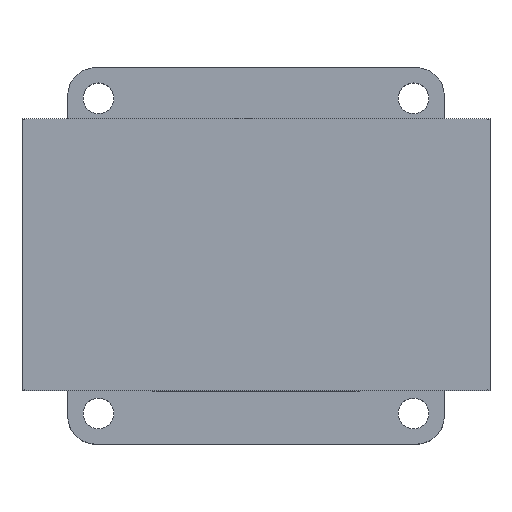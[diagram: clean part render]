
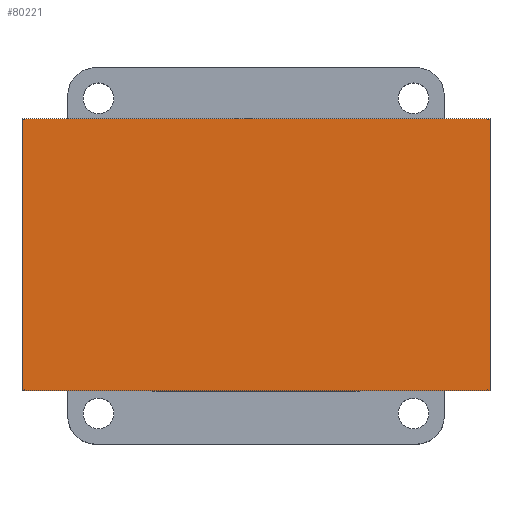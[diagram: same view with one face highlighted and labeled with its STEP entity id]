
A CAD part, top view. The second image highlights one B-rep face of the part: STEP entity #80221.
In plain terms, the highlighted planar face has unit normal (0, 0, 1).
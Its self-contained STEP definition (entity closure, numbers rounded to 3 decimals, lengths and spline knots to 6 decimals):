
#489=LINE('',#116182,#10259);
#492=LINE('',#116188,#10262);
#493=LINE('',#116190,#10263);
#494=LINE('',#116191,#10264);
#10259=VECTOR('',#93272,1.);
#10262=VECTOR('',#93277,1.);
#10263=VECTOR('',#93280,1.);
#10264=VECTOR('',#93281,1.);
#20563=PLANE('',#86615);
#23679=ORIENTED_EDGE('',*,*,#47890,.F.);
#23680=ORIENTED_EDGE('',*,*,#47891,.T.);
#23681=ORIENTED_EDGE('',*,*,#47887,.T.);
#23682=ORIENTED_EDGE('',*,*,#47892,.F.);
#47887=EDGE_CURVE('',#60005,#60006,#489,.T.);
#47890=EDGE_CURVE('',#60008,#60007,#492,.T.);
#47891=EDGE_CURVE('',#60008,#60005,#493,.T.);
#47892=EDGE_CURVE('',#60007,#60006,#494,.T.);
#60005=VERTEX_POINT('',#116179);
#60006=VERTEX_POINT('',#116181);
#60007=VERTEX_POINT('',#116185);
#60008=VERTEX_POINT('',#116187);
#70233=EDGE_LOOP('',(#23679,#23680,#23681,#23682));
#74669=FACE_BOUND('',#70233,.T.);
#80221=ADVANCED_FACE('',(#74669),#20563,.T.);
#86615=AXIS2_PLACEMENT_3D('',#116189,#93278,#93279);
#93272=DIRECTION('',(0.,-1.,0.));
#93277=DIRECTION('',(0.,-1.,0.));
#93278=DIRECTION('',(0.,0.,1.));
#93279=DIRECTION('',(0.,-1.,0.));
#93280=DIRECTION('',(-1.,0.,0.));
#93281=DIRECTION('',(-1.,0.,0.));
#116179=CARTESIAN_POINT('',(-0.016782,0.009755,0.033666));
#116181=CARTESIAN_POINT('',(-0.016782,-0.009755,0.033666));
#116182=CARTESIAN_POINT('',(-0.016782,0.009757,0.033666));
#116185=CARTESIAN_POINT('',(0.016782,-0.009755,0.033666));
#116187=CARTESIAN_POINT('',(0.016782,0.009755,0.033666));
#116188=CARTESIAN_POINT('',(0.016782,0.009757,0.033666));
#116189=CARTESIAN_POINT('',(0.,0.009757,0.033666));
#116190=CARTESIAN_POINT('',(0.,0.009755,0.033666));
#116191=CARTESIAN_POINT('',(0.,-0.009755,0.033666));
